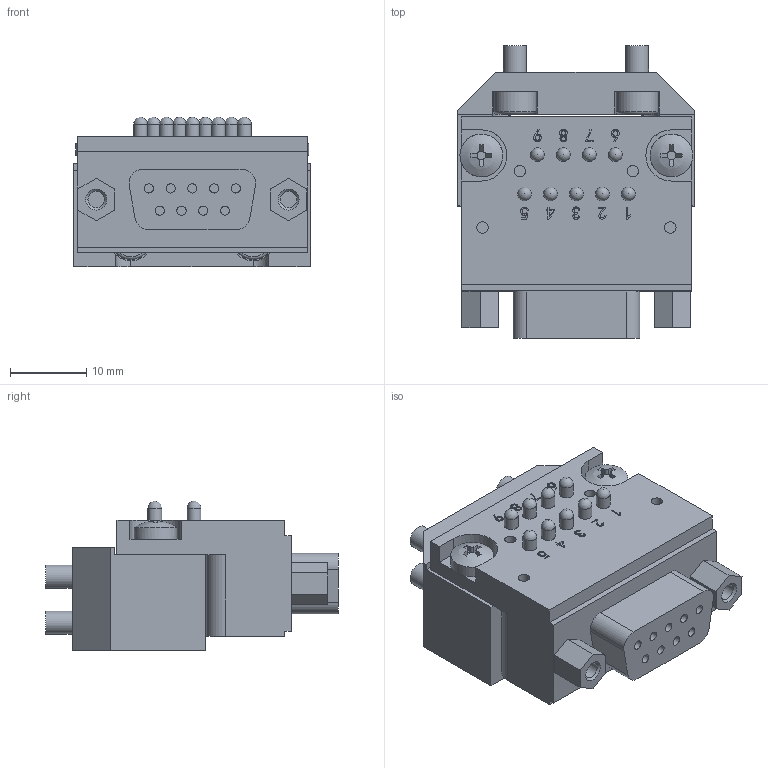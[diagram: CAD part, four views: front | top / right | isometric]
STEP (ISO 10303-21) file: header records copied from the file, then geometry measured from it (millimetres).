
FILE_DESCRIPTION(/* description */ (''),/* implementation_level */ '2;1');
FILE_NAME(/* name */ '9G3',/* time_stamp */ '2020-09-26T15:43:59+08:00',/* author */ (''),/* organization */ (''),/* preprocessor_version */ 'ST-DEVELOPER v9',/* originating_system */ 'UGS - NX 4.0',/* authorisation */ '');
FILE_SCHEMA (('AUTOMOTIVE_DESIGN { 1 0 10303 214 1 1 1 1 }'));
Length unit declared in the file: millimetre
Products named in the file (1): admi1C5698an
Bounding box: 31 x 38.35 x 19.6 mm (x, y, z)
Volume: 13085.1 mm3; surface area: 6907.4 mm2
Topology: 1 solids, 14 shells, 516 faces, 1263 edges, 821 vertices
Faces by surface type: plane 291, cylinder 115, cone 61, extrusion 30, sphere 15, torus 4
Full cylindrical faces by diameter (mm): 1.2 x9, 1.5 x4, 1.8 x9, 2.156 x2, 2.5 x2, 3 x16, 3.2 x4, 3.5 x2, 4 x4, 4.2 x2, 5.5 x4, 5.6 x2, 5.8 x2
Entity records: 15499 total; most frequent: CARTESIAN_POINT 4078, DIRECTION 2338, ORIENTED_EDGE 2168, EDGE_CURVE 1084, AXIS2_PLACEMENT_3D 857, VERTEX_POINT 766, EDGE_LOOP 686, VECTOR 624
